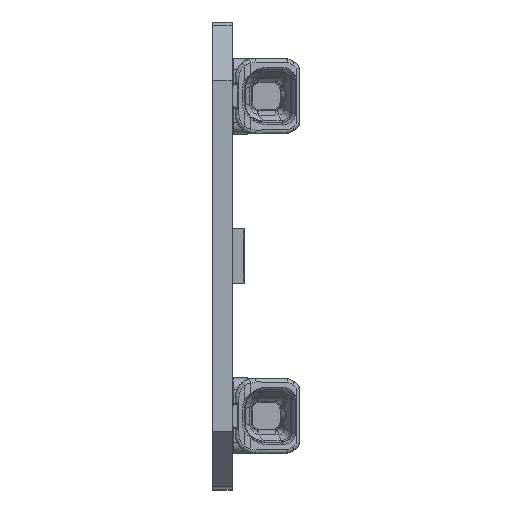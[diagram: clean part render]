
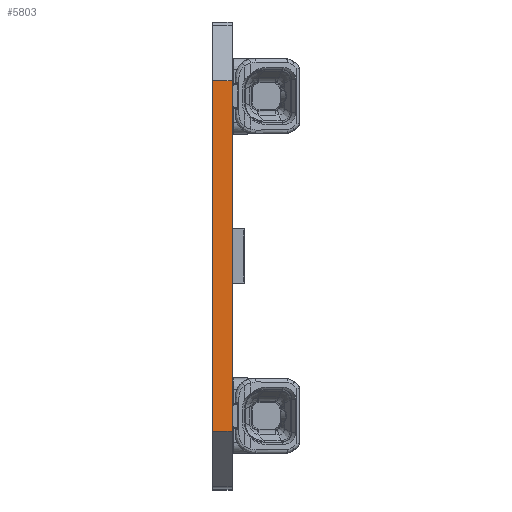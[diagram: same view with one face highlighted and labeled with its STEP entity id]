
A CAD part, left-side view. The second image highlights one B-rep face of the part: STEP entity #5803.
In plain terms, the highlighted planar face has unit normal (-1, 0, 0).
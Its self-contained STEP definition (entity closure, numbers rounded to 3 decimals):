
#822=ORIENTED_EDGE('',*,*,#2365,.T.);
#823=ORIENTED_EDGE('',*,*,#2366,.F.);
#824=ORIENTED_EDGE('',*,*,#2367,.F.);
#825=ORIENTED_EDGE('',*,*,#2363,.T.);
#2363=EDGE_CURVE('',#3130,#3129,#3624,.T.);
#2365=EDGE_CURVE('',#3129,#3131,#3626,.T.);
#2366=EDGE_CURVE('',#3132,#3131,#3627,.T.);
#2367=EDGE_CURVE('',#3130,#3132,#3628,.T.);
#3129=VERTEX_POINT('',#8025);
#3130=VERTEX_POINT('',#8027);
#3131=VERTEX_POINT('',#8031);
#3132=VERTEX_POINT('',#8033);
#3624=LINE('',#8026,#4071);
#3626=LINE('',#8030,#4073);
#3627=LINE('',#8032,#4074);
#3628=LINE('',#8034,#4075);
#4071=VECTOR('',#6647,1000.);
#4073=VECTOR('',#6651,1000.);
#4074=VECTOR('',#6652,1000.);
#4075=VECTOR('',#6653,1000.);
#4501=EDGE_LOOP('',(#822,#823,#824,#825));
#4826=FACE_BOUND('',#4501,.T.);
#5148=PLANE('',#6136);
#5803=ADVANCED_FACE('',(#4826),#5148,.F.);
#6136=AXIS2_PLACEMENT_3D('',#8029,#6649,#6650);
#6647=DIRECTION('',(0.,1.,0.));
#6649=DIRECTION('',(1.,0.,0.));
#6650=DIRECTION('',(0.,0.,-1.));
#6651=DIRECTION('',(0.,0.,-1.));
#6652=DIRECTION('',(0.,1.,0.));
#6653=DIRECTION('',(0.,0.,-1.));
#8025=CARTESIAN_POINT('',(-139.75,0.,9.));
#8026=CARTESIAN_POINT('',(-139.75,-1.,9.));
#8027=CARTESIAN_POINT('',(-139.75,-1.,9.));
#8029=CARTESIAN_POINT('',(-139.75,-1.,9.));
#8030=CARTESIAN_POINT('',(-139.75,0.,9.));
#8031=CARTESIAN_POINT('',(-139.75,0.,-9.));
#8032=CARTESIAN_POINT('',(-139.75,-1.,-9.));
#8033=CARTESIAN_POINT('',(-139.75,-1.,-9.));
#8034=CARTESIAN_POINT('',(-139.75,-1.,9.));
